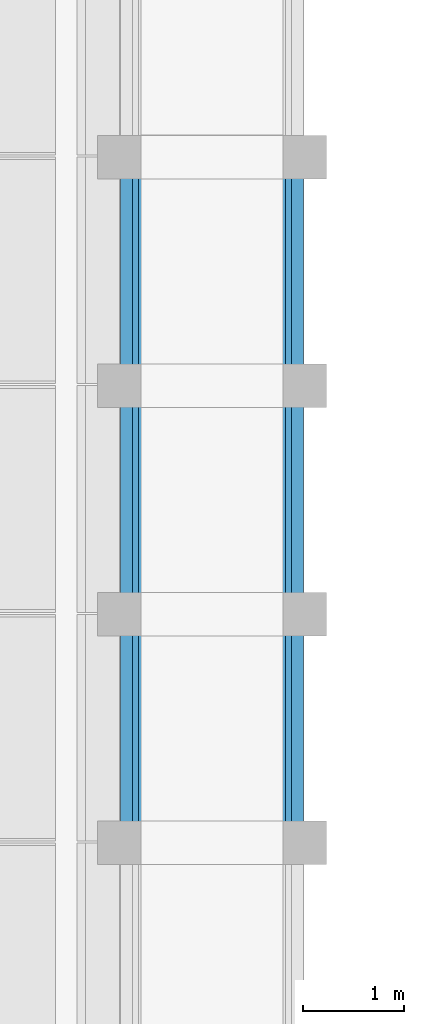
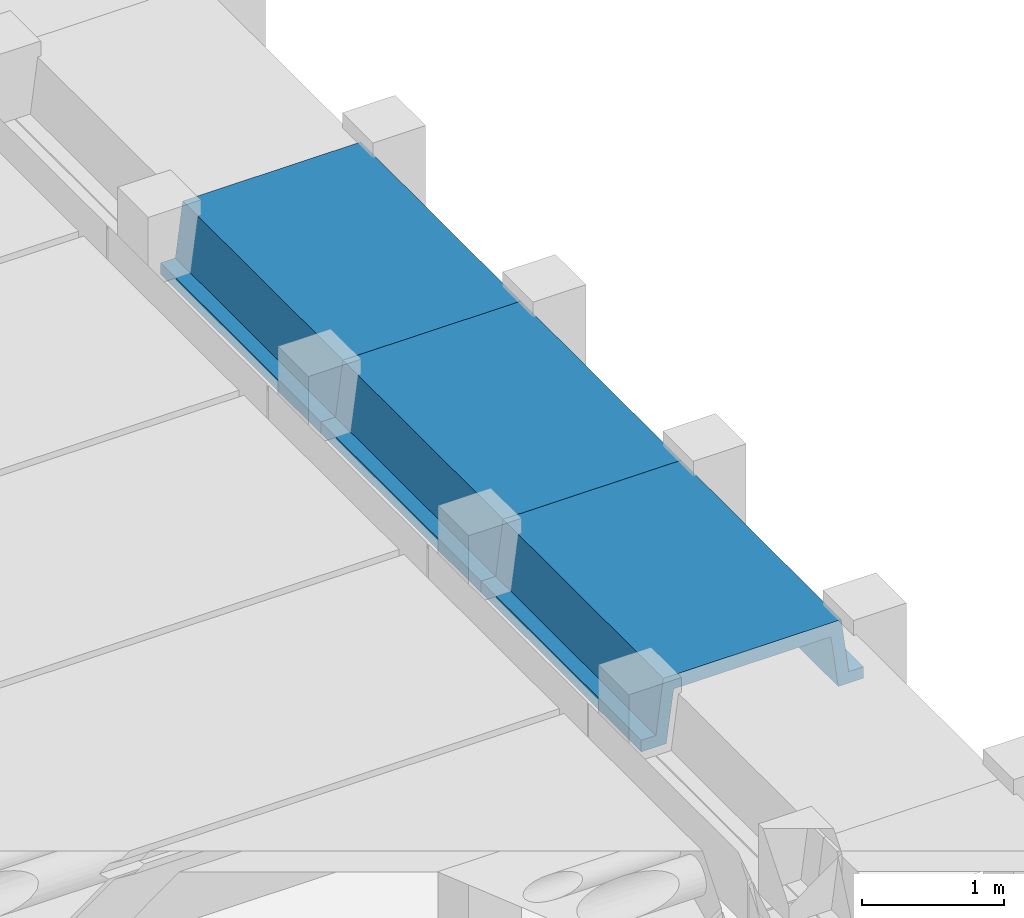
# One storey, part 4 of 18: 3 beams.
"""IFC2X3 building model written with IfcOpenShell, lengths in millimetres."""

from ifc_helpers import new_model, entity, si_unit, converted_unit, derived_unit, direction, frame, origin, place, context, subcontext, project, spatial, polyline, outline, extrude, material, type_object, element, save


model = new_model("IFC2X3")

# Units and contexts
model_context = context("Model", 3, precision=0.01, world=origin(), true_north=direction((6.12303176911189e-17, 1.0)))
body_context = subcontext(model_context, "Body", "Model", "MODEL_VIEW")
ifc_project = project(units=[si_unit("LENGTHUNIT", "METRE", prefix="MILLI"), si_unit("AREAUNIT", "SQUARE_METRE"), si_unit("VOLUMEUNIT", "CUBIC_METRE"), converted_unit("PLANEANGLEUNIT", "DEGREE", entity("IfcRatioMeasure", 0.0174532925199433), si_unit("PLANEANGLEUNIT", "RADIAN"), dimensions=[0, 0, 0, 0, 0, 0, 0]), si_unit("MASSUNIT", "GRAM", prefix="KILO"), derived_unit("MASSDENSITYUNIT", [(si_unit("MASSUNIT", "GRAM", prefix="KILO"), 1), (si_unit("LENGTHUNIT", "METRE"), -3)]), derived_unit("MOMENTOFINERTIAUNIT", [(si_unit("LENGTHUNIT", "METRE"), 4)]), si_unit("TIMEUNIT", "SECOND"), si_unit("FREQUENCYUNIT", "HERTZ"), si_unit("THERMODYNAMICTEMPERATUREUNIT", "DEGREE_CELSIUS"), derived_unit("THERMALTRANSMITTANCEUNIT", [(si_unit("MASSUNIT", "GRAM", prefix="KILO"), 1), (si_unit("THERMODYNAMICTEMPERATUREUNIT", "KELVIN"), -1), (si_unit("TIMEUNIT", "SECOND"), -3)]), derived_unit("VOLUMETRICFLOWRATEUNIT", [(si_unit("LENGTHUNIT", "METRE"), 3), (si_unit("TIMEUNIT", "SECOND"), -1)]), si_unit("ELECTRICCURRENTUNIT", "AMPERE"), si_unit("ELECTRICVOLTAGEUNIT", "VOLT"), si_unit("POWERUNIT", "WATT"), si_unit("FORCEUNIT", "NEWTON", prefix="KILO"), si_unit("ILLUMINANCEUNIT", "LUX"), si_unit("LUMINOUSFLUXUNIT", "LUMEN"), si_unit("LUMINOUSINTENSITYUNIT", "CANDELA"), derived_unit("USERDEFINED", [(si_unit("MASSUNIT", "GRAM", prefix="KILO"), -1), (si_unit("LENGTHUNIT", "METRE"), -2), (si_unit("TIMEUNIT", "SECOND"), 3), (si_unit("LUMINOUSFLUXUNIT", "LUMEN"), 1)]), derived_unit("LINEARVELOCITYUNIT", [(si_unit("LENGTHUNIT", "METRE"), 1), (si_unit("TIMEUNIT", "SECOND"), -1)]), si_unit("PRESSUREUNIT", "PASCAL"), derived_unit("USERDEFINED", [(si_unit("LENGTHUNIT", "METRE"), -2), (si_unit("MASSUNIT", "GRAM", prefix="KILO"), 1), (si_unit("TIMEUNIT", "SECOND"), -2)]), derived_unit("LINEARFORCEUNIT", [(si_unit("MASSUNIT", "GRAM", prefix="KILO"), 1), (si_unit("LENGTHUNIT", "METRE"), 1), (si_unit("TIMEUNIT", "SECOND"), -2), (si_unit("LENGTHUNIT", "METRE"), -1)]), derived_unit("PLANARFORCEUNIT", [(si_unit("MASSUNIT", "GRAM", prefix="KILO"), 1), (si_unit("LENGTHUNIT", "METRE"), 1), (si_unit("TIMEUNIT", "SECOND"), -2), (si_unit("LENGTHUNIT", "METRE"), -2)])], contexts=[model_context])

# Site, building, storey
site_placement = place(None, frame((10627.5135316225, 21939.0796949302, 0.0)))
site = spatial("IfcSite", under=ifc_project, at=site_placement, Name="Default", CompositionType="ELEMENT")
building_placement = place(site_placement, origin())
building = spatial("IfcBuilding", under=site, at=building_placement, CompositionType="ELEMENT")
storey_placement = place(building_placement, frame((0.0, 0.0, 3660.0)))
storey = spatial("IfcBuildingStorey", under=building, at=storey_placement, Name="R+1", CompositionType="ELEMENT", Elevation=3660.0)

# Beams
ifc_material = material(Name="Concrete, Precast Smooth, Light Grey")
beam_type = type_object("IfcBeamType", Name="Poutre petite:Poutre petite", PredefinedType="NOTDEFINED")
for number, where, z_axis, x_axis, name in (
    (1, (667.48646837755, -8379.07969493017, 3530.0), (0.0, 0.0, 1.0), (0.0, 1.0, 0.0), "Poutre petite:Poutre petite"),
    (2, (667.48646837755, -10639.0796949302, 3530.0), (0.0, 0.0, 1.0), (0.0, 1.0, 0.0), "Poutre petite:Poutre petite"),
    (3, (667.48646837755, -12899.0796949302, 3530.0), (0.0, 0.0, 1.0), (0.0, 1.0, 0.0), "Poutre petite:Poutre petite"),
):
    element("IfcBeam", number, at=place(storey_placement, frame(where, z_axis=z_axis, x_axis=x_axis)), inside=storey, type_object=beam_type, material=ifc_material, Name=name, ObjectType="Poutre petite:Poutre petite", context=body_context, shape_type="SweptSolid", body=[
        extrude(outline(polyline([(103.333217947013, -905.013684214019), (203.333564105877, -905.013684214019), (203.333564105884, -700.013730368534), (-246.666782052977, -640.013684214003), (-246.666782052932, 640.013497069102), (203.333564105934, 700.013543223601), (203.333564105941, 905.014058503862), (103.333217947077, 905.014058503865), (103.333217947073, 785.01349706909), (-366.666782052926, 725.013497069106), (-366.666782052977, -725.013684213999), (103.333217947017, -785.013684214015), (103.333217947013, -905.013684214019)])), frame((0.0, -0.000187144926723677, -366.666782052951), z_axis=(1.0, 0.0, 0.0), x_axis=(0.0, 0.0, -1.0)), (0.0, 0.0, 1.0), 2260.0),
    ])

save(model, "model.ifc")
